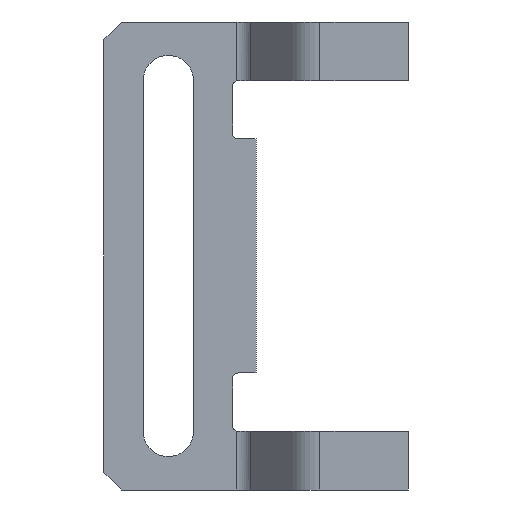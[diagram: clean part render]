
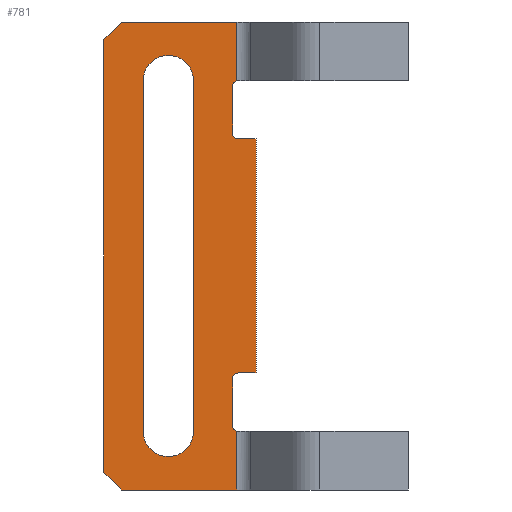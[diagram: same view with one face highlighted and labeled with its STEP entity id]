
A CAD part, front view. The second image highlights one B-rep face of the part: STEP entity #781.
In plain terms, the highlighted planar face has unit normal (0, -1, 0).
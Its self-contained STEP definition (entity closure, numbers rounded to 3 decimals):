
#73=CARTESIAN_POINT('',(0.,-2.,10.0));
#74=VERTEX_POINT('',#73);
#83=CARTESIAN_POINT('',(0.,-2.,-10.0));
#84=VERTEX_POINT('',#83);
#85=CARTESIAN_POINT('',(0.,-2.,-10.0));
#86=DIRECTION('',(0.0,0.0,1.0));
#87=VECTOR('',#86,20.0);
#88=LINE('',#85,#87);
#89=EDGE_CURVE('',#84,#74,#88,.T.);
#164=CARTESIAN_POINT('',(-11.5,-2.,20.0));
#165=VERTEX_POINT('',#164);
#172=CARTESIAN_POINT('',(-1.639,-2.,20.0));
#173=VERTEX_POINT('',#172);
#174=CARTESIAN_POINT('',(-1.639,-2.,20.0));
#175=DIRECTION('',(-1.0,0.0,0.0));
#176=VECTOR('',#175,9.861);
#177=LINE('',#174,#176);
#178=EDGE_CURVE('',#173,#165,#177,.T.);
#554=CARTESIAN_POINT('',(-1.639,-2.,14.98));
#555=VERTEX_POINT('',#554);
#556=CARTESIAN_POINT('',(-1.639,-2.,20.0));
#557=DIRECTION('',(0.0,0.0,-1.0));
#558=VECTOR('',#557,5.02);
#559=LINE('',#556,#558);
#560=EDGE_CURVE('',#173,#555,#559,.T.);
#604=CARTESIAN_POINT('',(-1.639,-2.,-14.98));
#605=VERTEX_POINT('',#604);
#613=CARTESIAN_POINT('',(-1.639,-2.,-20.0));
#614=VERTEX_POINT('',#613);
#615=CARTESIAN_POINT('',(-1.639,-2.,-14.98));
#616=DIRECTION('',(0.0,0.0,-1.0));
#617=VECTOR('',#616,5.02);
#618=LINE('',#615,#617);
#619=EDGE_CURVE('',#605,#614,#618,.T.);
#640=CARTESIAN_POINT('',(-0.937,-2.,0.0));
#641=DIRECTION('',(0.0,-1.0,0.0));
#642=DIRECTION('',(0.0,0.0,-1.0));
#643=AXIS2_PLACEMENT_3D('',#640,#641,#642);
#644=PLANE('',#643);
#645=ORIENTED_EDGE('',*,*,#560,.F.);
#646=ORIENTED_EDGE('',*,*,#178,.T.);
#647=CARTESIAN_POINT('',(-13.,-2.,18.5));
#648=VERTEX_POINT('',#647);
#649=CARTESIAN_POINT('',(-13.,-2.,18.5));
#650=DIRECTION('',(0.707,0.0,0.707));
#651=VECTOR('',#650,2.121);
#652=LINE('',#649,#651);
#653=EDGE_CURVE('',#648,#165,#652,.T.);
#654=ORIENTED_EDGE('',*,*,#653,.F.);
#655=CARTESIAN_POINT('',(-13.,-2.,-18.5));
#656=VERTEX_POINT('',#655);
#657=CARTESIAN_POINT('',(-13.,-2.,18.5));
#658=DIRECTION('',(0.0,0.0,-1.0));
#659=VECTOR('',#658,37.0);
#660=LINE('',#657,#659);
#661=EDGE_CURVE('',#648,#656,#660,.T.);
#662=ORIENTED_EDGE('',*,*,#661,.T.);
#663=CARTESIAN_POINT('',(-11.5,-2.,-20.0));
#664=VERTEX_POINT('',#663);
#665=CARTESIAN_POINT('',(-11.5,-2.,-20.0));
#666=DIRECTION('',(-0.707,0.0,0.707));
#667=VECTOR('',#666,2.121);
#668=LINE('',#665,#667);
#669=EDGE_CURVE('',#664,#656,#668,.T.);
#670=ORIENTED_EDGE('',*,*,#669,.F.);
#671=CARTESIAN_POINT('',(-11.5,-2.,-20.0));
#672=DIRECTION('',(1.0,0.0,0.0));
#673=VECTOR('',#672,9.861);
#674=LINE('',#671,#673);
#675=EDGE_CURVE('',#664,#614,#674,.T.);
#676=ORIENTED_EDGE('',*,*,#675,.T.);
#677=ORIENTED_EDGE('',*,*,#619,.F.);
#678=CARTESIAN_POINT('',(-2.,-2.,-14.5));
#679=VERTEX_POINT('',#678);
#680=CARTESIAN_POINT('',(-1.5,-2.,-14.5));
#681=DIRECTION('',(0.0,-1.0,0.0));
#682=DIRECTION('',(-0.707,0.0,-0.707));
#683=AXIS2_PLACEMENT_3D('',#680,#681,#682);
#684=CIRCLE('',#683,0.5);
#685=EDGE_CURVE('',#679,#605,#684,.T.);
#686=ORIENTED_EDGE('',*,*,#685,.F.);
#687=CARTESIAN_POINT('',(-2.,-2.,-10.5));
#688=VERTEX_POINT('',#687);
#689=CARTESIAN_POINT('',(-2.,-2.,-14.5));
#690=DIRECTION('',(0.0,0.0,1.0));
#691=VECTOR('',#690,4.);
#692=LINE('',#689,#691);
#693=EDGE_CURVE('',#679,#688,#692,.T.);
#694=ORIENTED_EDGE('',*,*,#693,.T.);
#695=CARTESIAN_POINT('',(-1.5,-2.,-10.0));
#696=VERTEX_POINT('',#695);
#697=CARTESIAN_POINT('',(-1.5,-2.,-10.5));
#698=DIRECTION('',(0.0,-1.0,0.0));
#699=DIRECTION('',(-0.707,0.0,0.707));
#700=AXIS2_PLACEMENT_3D('',#697,#698,#699);
#701=CIRCLE('',#700,0.5);
#702=EDGE_CURVE('',#696,#688,#701,.T.);
#703=ORIENTED_EDGE('',*,*,#702,.F.);
#704=CARTESIAN_POINT('',(-1.5,-2.,-10.0));
#705=DIRECTION('',(1.0,0.0,0.0));
#706=VECTOR('',#705,1.5);
#707=LINE('',#704,#706);
#708=EDGE_CURVE('',#696,#84,#707,.T.);
#709=ORIENTED_EDGE('',*,*,#708,.T.);
#710=ORIENTED_EDGE('',*,*,#89,.T.);
#711=CARTESIAN_POINT('',(-1.5,-2.,10.));
#712=VERTEX_POINT('',#711);
#713=CARTESIAN_POINT('',(0.,-2.,10.0));
#714=DIRECTION('',(-1.0,0.0,0.0));
#715=VECTOR('',#714,1.5);
#716=LINE('',#713,#715);
#717=EDGE_CURVE('',#74,#712,#716,.T.);
#718=ORIENTED_EDGE('',*,*,#717,.T.);
#719=CARTESIAN_POINT('',(-2.,-2.,10.5));
#720=VERTEX_POINT('',#719);
#721=CARTESIAN_POINT('',(-1.5,-2.,10.5));
#722=DIRECTION('',(0.0,-1.0,0.0));
#723=DIRECTION('',(-0.707,0.0,-0.707));
#724=AXIS2_PLACEMENT_3D('',#721,#722,#723);
#725=CIRCLE('',#724,0.5);
#726=EDGE_CURVE('',#720,#712,#725,.T.);
#727=ORIENTED_EDGE('',*,*,#726,.F.);
#728=CARTESIAN_POINT('',(-2.,-2.,14.5));
#729=VERTEX_POINT('',#728);
#730=CARTESIAN_POINT('',(-2.,-2.,10.5));
#731=DIRECTION('',(0.0,0.0,1.0));
#732=VECTOR('',#731,4.0);
#733=LINE('',#730,#732);
#734=EDGE_CURVE('',#720,#729,#733,.T.);
#735=ORIENTED_EDGE('',*,*,#734,.T.);
#736=CARTESIAN_POINT('',(-1.5,-2.,14.5));
#737=DIRECTION('',(0.0,-1.0,0.0));
#738=DIRECTION('',(-0.707,0.0,0.707));
#739=AXIS2_PLACEMENT_3D('',#736,#737,#738);
#740=CIRCLE('',#739,0.5);
#741=EDGE_CURVE('',#555,#729,#740,.T.);
#742=ORIENTED_EDGE('',*,*,#741,.F.);
#743=EDGE_LOOP('',(#645,#646,#654,#662,#670,#676,#677,#686,#694,#703,#709,#710,#718,#727,#735,#742));
#744=FACE_OUTER_BOUND('',#743,.T.);
#745=CARTESIAN_POINT('',(-9.65,-2.,-15.0));
#746=VERTEX_POINT('',#745);
#747=CARTESIAN_POINT('',(-9.65,-2.,15.));
#748=VERTEX_POINT('',#747);
#749=CARTESIAN_POINT('',(-9.65,-2.,-15.0));
#750=DIRECTION('',(0.0,0.0,1.0));
#751=VECTOR('',#750,30.);
#752=LINE('',#749,#751);
#753=EDGE_CURVE('',#746,#748,#752,.T.);
#754=ORIENTED_EDGE('',*,*,#753,.T.);
#755=CARTESIAN_POINT('',(-5.35,-2.,15.));
#756=VERTEX_POINT('',#755);
#757=CARTESIAN_POINT('',(-7.5,-2.,15.0));
#758=DIRECTION('',(0.0,1.0,0.0));
#759=DIRECTION('',(1.0,0.0,0.0));
#760=AXIS2_PLACEMENT_3D('',#757,#758,#759);
#761=CIRCLE('',#760,2.15);
#762=EDGE_CURVE('',#748,#756,#761,.T.);
#763=ORIENTED_EDGE('',*,*,#762,.T.);
#764=CARTESIAN_POINT('',(-5.35,-2.,-15.0));
#765=VERTEX_POINT('',#764);
#766=CARTESIAN_POINT('',(-5.35,-2.,15.));
#767=DIRECTION('',(0.0,0.0,-1.0));
#768=VECTOR('',#767,30.);
#769=LINE('',#766,#768);
#770=EDGE_CURVE('',#756,#765,#769,.T.);
#771=ORIENTED_EDGE('',*,*,#770,.T.);
#772=CARTESIAN_POINT('',(-7.5,-2.,-15.0));
#773=DIRECTION('',(0.0,1.0,0.0));
#774=DIRECTION('',(-1.0,0.0,0.0));
#775=AXIS2_PLACEMENT_3D('',#772,#773,#774);
#776=CIRCLE('',#775,2.15);
#777=EDGE_CURVE('',#765,#746,#776,.T.);
#778=ORIENTED_EDGE('',*,*,#777,.T.);
#779=EDGE_LOOP('',(#754,#763,#771,#778));
#780=FACE_BOUND('',#779,.T.);
#781=ADVANCED_FACE('',(#744,#780),#644,.T.);
